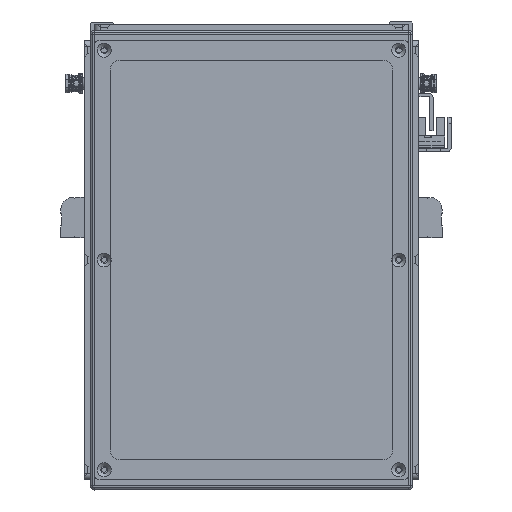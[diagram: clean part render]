
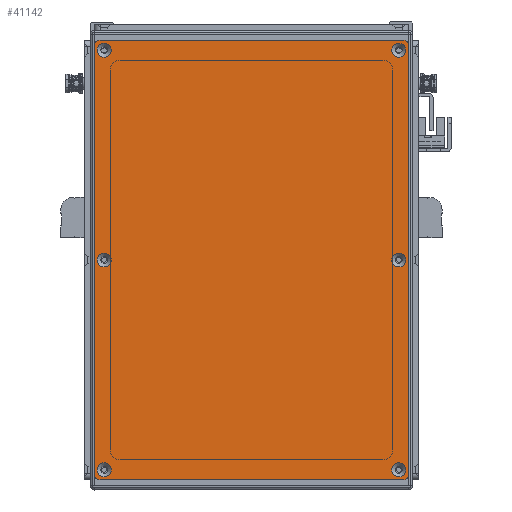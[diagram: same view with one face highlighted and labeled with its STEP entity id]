
A CAD part, front view. The second image highlights one B-rep face of the part: STEP entity #41142.
In plain terms, the highlighted planar face has unit normal (0, -1, 0).
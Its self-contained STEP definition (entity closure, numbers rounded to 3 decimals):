
#4774=FACE_BOUND('',#11111,.T.);
#4775=FACE_BOUND('',#11112,.T.);
#4776=FACE_BOUND('',#11113,.T.);
#4777=FACE_BOUND('',#11114,.T.);
#4778=FACE_BOUND('',#11115,.T.);
#4779=FACE_BOUND('',#11116,.T.);
#5709=PLANE('',#45847);
#8674=FACE_OUTER_BOUND('',#11110,.T.);
#11110=EDGE_LOOP('',(#38146,#38147,#38148,#38149,#38150,#38151,#38152,#38153));
#11111=EDGE_LOOP('',(#38154));
#11112=EDGE_LOOP('',(#38155));
#11113=EDGE_LOOP('',(#38156));
#11114=EDGE_LOOP('',(#38157));
#11115=EDGE_LOOP('',(#38158));
#11116=EDGE_LOOP('',(#38159));
#14111=LINE('',#72233,#17089);
#14112=LINE('',#72237,#17090);
#14113=LINE('',#72241,#17091);
#14114=LINE('',#72244,#17092);
#17089=VECTOR('',#57030,10.);
#17090=VECTOR('',#57033,10.);
#17091=VECTOR('',#57036,10.);
#17092=VECTOR('',#57039,10.);
#19198=CIRCLE('',#45815,3.45);
#19201=CIRCLE('',#45820,3.45);
#19204=CIRCLE('',#45825,3.45);
#19207=CIRCLE('',#45830,3.45);
#19210=CIRCLE('',#45835,3.45);
#19213=CIRCLE('',#45840,3.45);
#19216=CIRCLE('',#45845,3.);
#19218=CIRCLE('',#45848,3.);
#19219=CIRCLE('',#45849,3.);
#19220=CIRCLE('',#45850,3.);
#22675=VERTEX_POINT('',#72163);
#22678=VERTEX_POINT('',#72173);
#22681=VERTEX_POINT('',#72183);
#22684=VERTEX_POINT('',#72193);
#22687=VERTEX_POINT('',#72203);
#22690=VERTEX_POINT('',#72213);
#22693=VERTEX_POINT('',#72223);
#22694=VERTEX_POINT('',#72224);
#22697=VERTEX_POINT('',#72232);
#22698=VERTEX_POINT('',#72234);
#22699=VERTEX_POINT('',#72236);
#22700=VERTEX_POINT('',#72238);
#22701=VERTEX_POINT('',#72240);
#22702=VERTEX_POINT('',#72242);
#27862=EDGE_CURVE('',#22675,#22675,#19198,.T.);
#27867=EDGE_CURVE('',#22678,#22678,#19201,.T.);
#27872=EDGE_CURVE('',#22681,#22681,#19204,.T.);
#27877=EDGE_CURVE('',#22684,#22684,#19207,.T.);
#27882=EDGE_CURVE('',#22687,#22687,#19210,.T.);
#27887=EDGE_CURVE('',#22690,#22690,#19213,.T.);
#27892=EDGE_CURVE('',#22693,#22694,#19216,.T.);
#27896=EDGE_CURVE('',#22693,#22697,#14111,.T.);
#27897=EDGE_CURVE('',#22698,#22697,#19218,.T.);
#27898=EDGE_CURVE('',#22698,#22699,#14112,.T.);
#27899=EDGE_CURVE('',#22700,#22699,#19219,.T.);
#27900=EDGE_CURVE('',#22700,#22701,#14113,.T.);
#27901=EDGE_CURVE('',#22702,#22701,#19220,.T.);
#27902=EDGE_CURVE('',#22702,#22694,#14114,.T.);
#38146=ORIENTED_EDGE('',*,*,#27892,.F.);
#38147=ORIENTED_EDGE('',*,*,#27896,.T.);
#38148=ORIENTED_EDGE('',*,*,#27897,.F.);
#38149=ORIENTED_EDGE('',*,*,#27898,.T.);
#38150=ORIENTED_EDGE('',*,*,#27899,.F.);
#38151=ORIENTED_EDGE('',*,*,#27900,.T.);
#38152=ORIENTED_EDGE('',*,*,#27901,.F.);
#38153=ORIENTED_EDGE('',*,*,#27902,.T.);
#38154=ORIENTED_EDGE('',*,*,#27862,.T.);
#38155=ORIENTED_EDGE('',*,*,#27867,.T.);
#38156=ORIENTED_EDGE('',*,*,#27872,.T.);
#38157=ORIENTED_EDGE('',*,*,#27877,.T.);
#38158=ORIENTED_EDGE('',*,*,#27882,.T.);
#38159=ORIENTED_EDGE('',*,*,#27887,.T.);
#41142=ADVANCED_FACE('',(#8674,#4774,#4775,#4776,#4777,#4778,#4779),#5709,
 .T.);
#45815=AXIS2_PLACEMENT_3D('',#72164,#56950,#56951);
#45820=AXIS2_PLACEMENT_3D('',#72174,#56962,#56963);
#45825=AXIS2_PLACEMENT_3D('',#72184,#56974,#56975);
#45830=AXIS2_PLACEMENT_3D('',#72194,#56986,#56987);
#45835=AXIS2_PLACEMENT_3D('',#72204,#56998,#56999);
#45840=AXIS2_PLACEMENT_3D('',#72214,#57010,#57011);
#45845=AXIS2_PLACEMENT_3D('',#72225,#57022,#57023);
#45847=AXIS2_PLACEMENT_3D('',#72231,#57028,#57029);
#45848=AXIS2_PLACEMENT_3D('',#72235,#57031,#57032);
#45849=AXIS2_PLACEMENT_3D('',#72239,#57034,#57035);
#45850=AXIS2_PLACEMENT_3D('',#72243,#57037,#57038);
#56950=DIRECTION('center_axis',(0.,1.,0.));
#56951=DIRECTION('ref_axis',(1.,0.,0.));
#56962=DIRECTION('center_axis',(0.,1.,0.));
#56963=DIRECTION('ref_axis',(1.,0.,0.));
#56974=DIRECTION('center_axis',(0.,1.,0.));
#56975=DIRECTION('ref_axis',(1.,0.,0.));
#56986=DIRECTION('center_axis',(0.,1.,0.));
#56987=DIRECTION('ref_axis',(1.,0.,0.));
#56998=DIRECTION('center_axis',(0.,1.,0.));
#56999=DIRECTION('ref_axis',(1.,0.,0.));
#57010=DIRECTION('center_axis',(0.,1.,0.));
#57011=DIRECTION('ref_axis',(1.,0.,0.));
#57022=DIRECTION('center_axis',(0.,1.,0.));
#57023=DIRECTION('ref_axis',(-0.707,0.,0.707));
#57028=DIRECTION('center_axis',(0.,-1.,0.));
#57029=DIRECTION('ref_axis',(0.,0.,-1.));
#57030=DIRECTION('',(0.,0.,-1.));
#57031=DIRECTION('center_axis',(0.,1.,0.));
#57032=DIRECTION('ref_axis',(-0.707,0.,-0.707));
#57033=DIRECTION('',(1.,0.,0.));
#57034=DIRECTION('center_axis',(0.,1.,0.));
#57035=DIRECTION('ref_axis',(0.707,0.,-0.707));
#57036=DIRECTION('',(0.,0.,1.));
#57037=DIRECTION('center_axis',(0.,1.,0.));
#57038=DIRECTION('ref_axis',(0.707,0.,0.707));
#57039=DIRECTION('',(-1.,0.,0.));
#72163=CARTESIAN_POINT('',(100.55,-1.5,73.));
#72164=CARTESIAN_POINT('Origin',(104.,-1.5,73.));
#72173=CARTESIAN_POINT('',(-107.45,-1.5,-73.));
#72174=CARTESIAN_POINT('Origin',(-104.,-1.5,-73.));
#72183=CARTESIAN_POINT('',(-3.45,-1.5,73.));
#72184=CARTESIAN_POINT('Origin',(0.,-1.5,73.));
#72193=CARTESIAN_POINT('',(-3.45,-1.5,-73.));
#72194=CARTESIAN_POINT('Origin',(0.,-1.5,-73.));
#72203=CARTESIAN_POINT('',(-107.45,-1.5,73.));
#72204=CARTESIAN_POINT('Origin',(-104.,-1.5,73.));
#72213=CARTESIAN_POINT('',(100.55,-1.5,-73.));
#72214=CARTESIAN_POINT('Origin',(104.,-1.5,-73.));
#72223=CARTESIAN_POINT('',(-109.,-1.5,75.));
#72224=CARTESIAN_POINT('',(-106.,-1.5,78.));
#72225=CARTESIAN_POINT('Origin',(-106.,-1.5,75.));
#72231=CARTESIAN_POINT('Origin',(0.,-1.5,0.));
#72232=CARTESIAN_POINT('',(-109.,-1.5,-75.));
#72233=CARTESIAN_POINT('',(-109.,-1.5,78.));
#72234=CARTESIAN_POINT('',(-106.,-1.5,-78.));
#72235=CARTESIAN_POINT('Origin',(-106.,-1.5,-75.));
#72236=CARTESIAN_POINT('',(106.,-1.5,-78.));
#72237=CARTESIAN_POINT('',(-109.,-1.5,-78.));
#72238=CARTESIAN_POINT('',(109.,-1.5,-75.));
#72239=CARTESIAN_POINT('Origin',(106.,-1.5,-75.));
#72240=CARTESIAN_POINT('',(109.,-1.5,75.));
#72241=CARTESIAN_POINT('',(109.,-1.5,-78.));
#72242=CARTESIAN_POINT('',(106.,-1.5,78.));
#72243=CARTESIAN_POINT('Origin',(106.,-1.5,75.));
#72244=CARTESIAN_POINT('',(109.,-1.5,78.));
